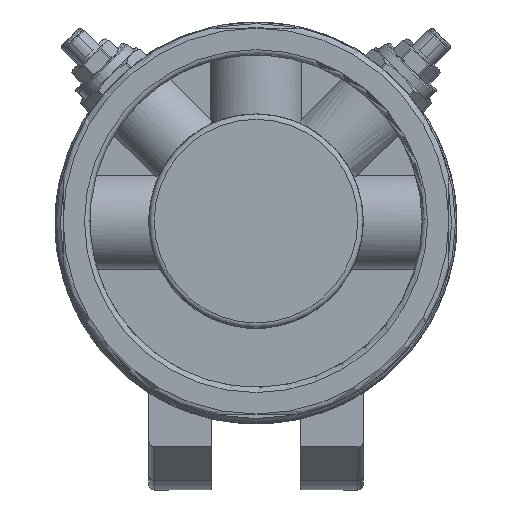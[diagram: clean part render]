
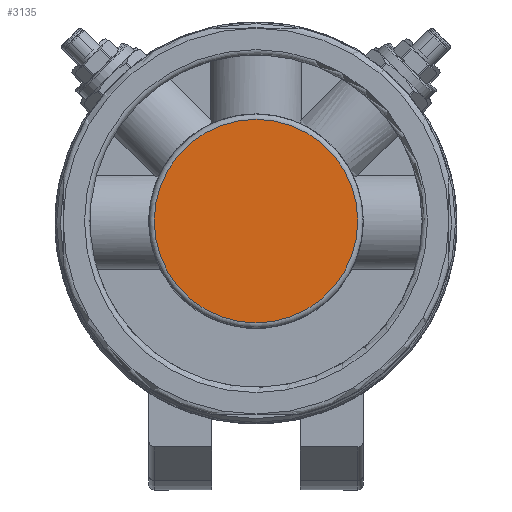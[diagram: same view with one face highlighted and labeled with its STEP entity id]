
A CAD part, top view. The second image highlights one B-rep face of the part: STEP entity #3135.
In plain terms, the highlighted planar face has unit normal (0, 0, 1).
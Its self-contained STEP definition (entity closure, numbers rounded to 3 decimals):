
#2824=CARTESIAN_POINT('',(19.0,0.,220.5));
#2825=VERTEX_POINT('',#2824);
#2826=CARTESIAN_POINT('',(0.,0.,220.5));
#2827=DIRECTION('',(0.0,0.0,-1.0));
#2828=DIRECTION('',(-1.0,0.0,0.0));
#2829=AXIS2_PLACEMENT_3D('',#2826,#2827,#2828);
#2830=CIRCLE('',#2829,19.0);
#2831=EDGE_CURVE('',#2825,#2825,#2830,.T.);
#3127=CARTESIAN_POINT('',(0.,0.,220.5));
#3128=DIRECTION('',(0.0,0.0,-1.0));
#3129=DIRECTION('',(-1.0,0.0,0.0));
#3130=AXIS2_PLACEMENT_3D('',#3127,#3128,#3129);
#3131=PLANE('',#3130);
#3132=ORIENTED_EDGE('',*,*,#2831,.F.);
#3133=EDGE_LOOP('',(#3132));
#3134=FACE_OUTER_BOUND('',#3133,.T.);
#3135=ADVANCED_FACE('',(#3134),#3131,.F.);
